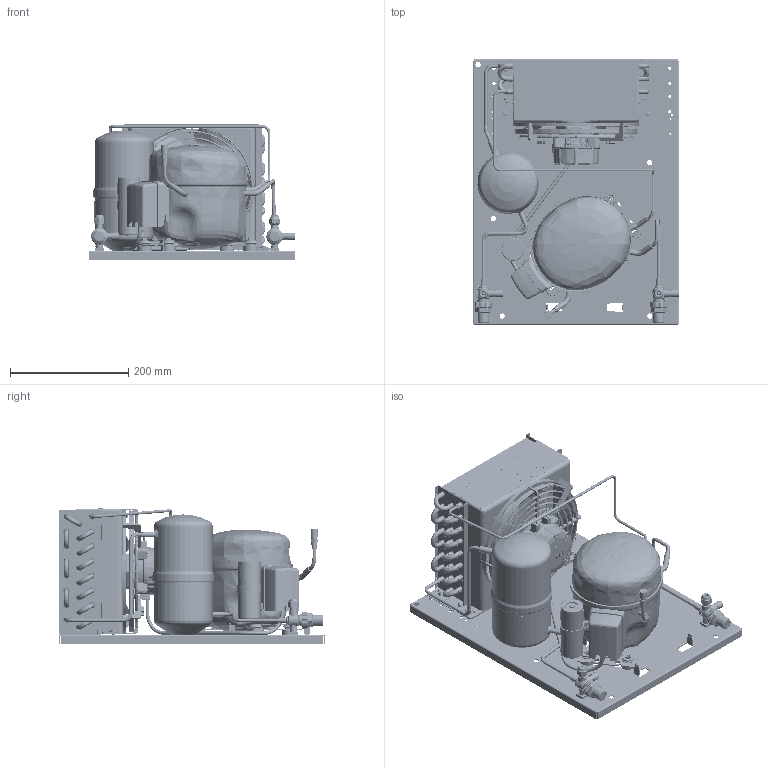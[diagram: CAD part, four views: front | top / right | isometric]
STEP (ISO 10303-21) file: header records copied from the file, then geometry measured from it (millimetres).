
FILE_DESCRIPTION(/* description */ ('Unknown'),/* implementation_level */ '2;1');
FILE_NAME(/* name */ '2298-0009',/* time_stamp */ '2022-01-10T13:49:24+01:00',/* author */ ('Unknown'),/* organization */ ('Unknown'),/* preprocessor_version */ 'ST-DEVELOPER v16.7',/* originating_system */ 'Solid Edge',/* authorisation */ 'Unknown');
FILE_SCHEMA (('AUTOMOTIVE_DESIGN {1 0 10303 214 3 1 1}'));
Length unit declared in the file: millimetre
Products named in the file (41): 2298-0009; 92505122; a200-28; 84DM8X6.9XXESRF00; 84fm8x12xxxteff00; 100_200vs00; 62010145; 6062_22M6; 118-7353; 8392_A; 84RM10X21XXPIAF00; 118-3661; 7210-0003; 7010_22; 7560_2; 84a4.2x9.5xtbcf01; 99000082_secop; 84t4.8x8xxxtcca00_oa_0; 84t4.8x8xxxtcca00_oa_1; 84t4.8x8xxxtcca00_oa_2; 84t4.8x8xxxtcca00_oa_3; 680063695; 84dm4x3.6xxesrf00; 99510255_Curva120°; 8351_2; 99510255_Tubo_Curva120°; 0830210a70; r50073706; r50073707; R59700251; 2990210; r50073701; 84RM5X15XXXPIAF00; 99000082_SECOP_F-GAS; TL4CL-A-CSIR; 9221-0002; cg200n; 6801-0074; 6803-1228; 2298-0009_CAVO_VENTOLA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
Assembly tree (84 placements, depth 3):
  2298-0009
    92505122
    a200-28
    84DM8X6.9XXESRF00
    84fm8x12xxxteff00  x2
    100_200vs00
    62010145
    6062_22M6  x2
    118-7353  x4
    8392_A  x3
    84RM10X21XXPIAF00  x4
    118-3661  x4
    7210-0003  x2
    7010_22  x2
    7560_2  x2
    84a4.2x9.5xtbcf01  x2
    99000082_secop
    84t4.8x8xxxtcca00_oa_0
    84t4.8x8xxxtcca00_oa_1
    84t4.8x8xxxtcca00_oa_2
    84t4.8x8xxxtcca00_oa_3
    680063695
    84dm4x3.6xxesrf00  x4
    99510255_Curva120°
      8351_2
      99510255_Tubo_Curva120°
      8392_A
    0830210a70
      r50073706
      r50073707
      R59700251  x13
      2990210  x11
      r50073701
    84RM5X15XXXPIAF00  x2
    99000082_SECOP_F-GAS
    TL4CL-A-CSIR
    9221-0002
    cg200n
    6801-0074
    6803-1228
    2298-0009_CAVO_VENTOLA
    6803-1336
Bounding box: 350 x 450 x 229.32 mm (x, y, z)
Volume: 3534072 mm3; surface area: 1926939 mm2
Topology: 84 solids, 97 shells, 10586 faces, 27117 edges, 17397 vertices
Faces by surface type: plane 5227, cylinder 1869, bspline 1630, torus 1074, cone 692, sphere 94
Full cylindrical faces by diameter (mm): 1 x4, 1.2 x4, 2 x20, 2.2 x8, 2.45 x6, 2.7 x4, 3 x6, 3.14 x6, 3.242 x4, 3.3 x2, 3.5 x18, 3.6 x4, 3.7 x4, 3.76 x6, 3.85 x2, 4 x7, 4.2 x16, 4.3 x2, 4.4 x4, 4.66 x4, 4.7 x4, 4.76 x6, 5 x19, 5.2 x2, 5.4 x2, 5.5 x14, 6 x23, 6.1 x2, 6.2 x2, 6.5 x4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
Entity records: 480023 total; most frequent: CARTESIAN_POINT 217327, ORIENTED_EDGE 46735, DIRECTION 35332, EDGE_CURVE 23399, VERTEX_POINT 15545, AXIS2_PLACEMENT_3D 13509, FACE_BOUND 11711, EDGE_LOOP 11710
